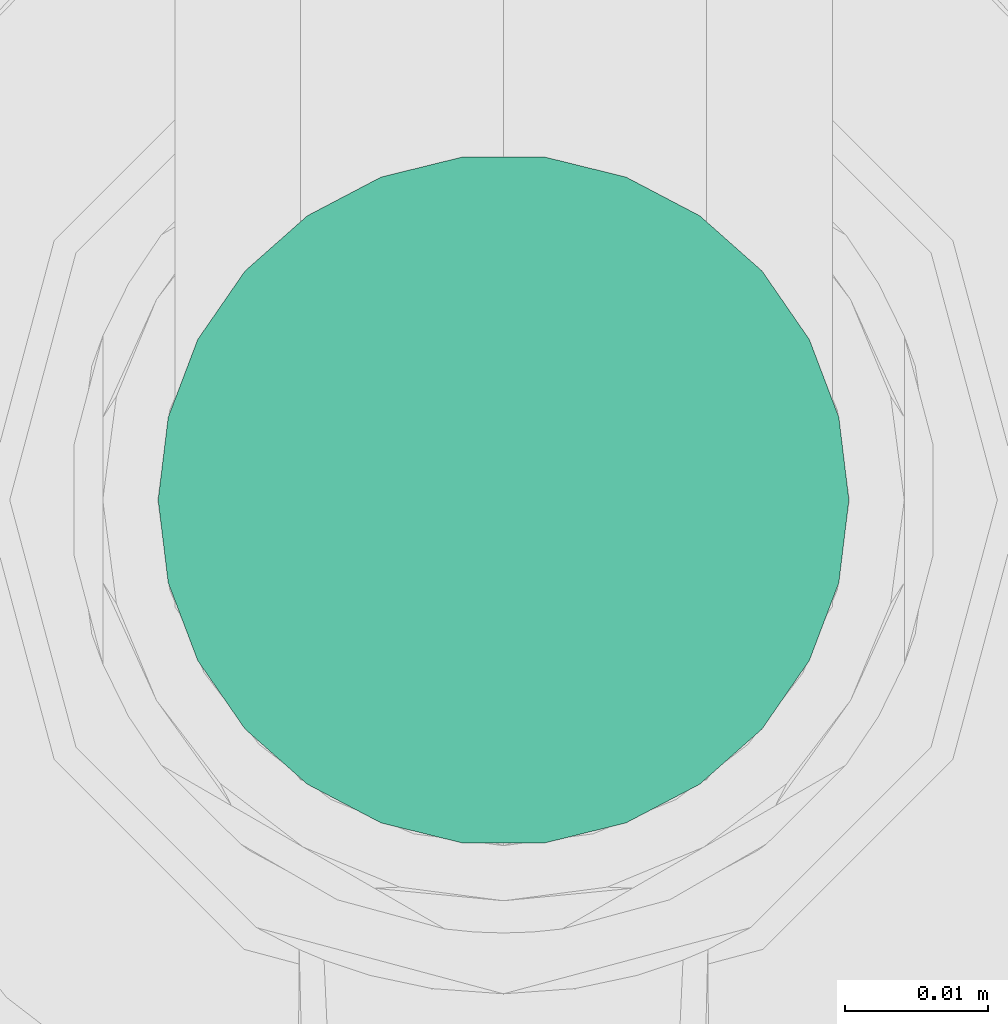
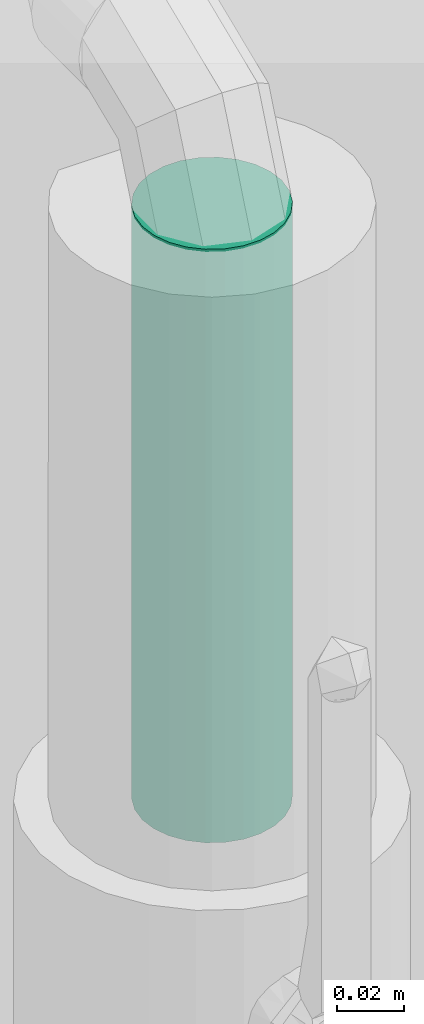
# One storey, part 71 of 94: 1 flow segment.
"""IFC2X3 building model written with IfcOpenShell, lengths in millimetres."""

import ifcopenshell
import ifcopenshell.guid

model = None  # the IFC model being written
_history = None  # IfcOwnerHistory: only IFC2X3 demands one
_inside = {}  # id of a spatial element -> (the spatial element, [elements in it])
_under = {}  # id of a project, library or spatial element -> (it, [spatial elements below it])
_declared = {}  # id of a project -> (the project, [libraries it declares])
_typed = {}  # id of a type object -> (the type object, [elements of that type])
_made_of = {}  # id of a material, layer set ... -> (it, [elements and type objects made of it])


def new_model(schema):
    """Start an empty IFC model of exactly this schema.

    Asked for "IFC4X3", IfcOpenShell would pick the latest addendum, in which some entities
    have other attributes; the version numbers below select the first issue.
    IFC2X3 requires an IfcOwnerHistory on every rooted entity: one is made here for all.
    """
    global model, _history
    if schema == "IFC4X3":
        model = ifcopenshell.file(schema_version=(4, 3, 0, 0))
    else:
        model = ifcopenshell.file(schema=schema)
    _inside.clear()
    _under.clear()
    _declared.clear()
    _typed.clear()
    _made_of.clear()
    _history = None
    if model.schema == "IFC2X3":
        org = make("IfcOrganization", Name="unknown")
        user = make(
            "IfcPersonAndOrganization",
            ThePerson=make("IfcPerson", FamilyName="unknown"),
            TheOrganization=org,
        )
        app = make(
            "IfcApplication",
            ApplicationDeveloper=org,
            Version="unknown",
            ApplicationFullName="unknown",
            ApplicationIdentifier="unknown",
        )
        _history = make(
            "IfcOwnerHistory",
            OwningUser=user,
            OwningApplication=app,
            ChangeAction="ADDED",
            CreationDate=0,
        )
    return model


def make(cls, **values):
    """One entity of the class cls with the attributes given. An attribute that is None is left unset."""
    return model.create_entity(
        cls, **{name: value for name, value in values.items() if value is not None}
    )


def entity(cls, *values):
    """Any entity or typed value of the class cls, its attributes in the order of the schema. None: left unset."""
    e = model.create_entity(cls)
    for i, value in enumerate(values):
        if value is not None:
            e[i] = value
    return e


def rooted(cls, **values):
    """An entity with a GlobalId (a new one), such as an element, a storey or a relation."""
    return make(cls, GlobalId=ifcopenshell.guid.new(), OwnerHistory=_history, **values)


def si_unit(unit_type, name, prefix=None):
    """IfcSIUnit, for example si_unit("LENGTHUNIT", "METRE", prefix="MILLI")."""
    return make("IfcSIUnit", UnitType=unit_type, Prefix=prefix, Name=name)


def converted_unit(unit_type, name, factor, base, dimensions=None, offset=None):
    """IfcConversionBasedUnit, such as the inch: factor (a typed value) times the base unit."""
    return make(
        "IfcConversionBasedUnit"
        if offset is None
        else "IfcConversionBasedUnitWithOffset",
        ConversionOffset=offset,
        Dimensions=None
        if dimensions is None
        else entity("IfcDimensionalExponents", *dimensions),
        UnitType=unit_type,
        Name=name,
        ConversionFactor=make(
            "IfcMeasureWithUnit", ValueComponent=factor, UnitComponent=base
        ),
    )


def derived_unit(unit_type, elements):
    """IfcDerivedUnit: a product of units, each with its exponent."""
    return make(
        "IfcDerivedUnit",
        Elements=[
            make("IfcDerivedUnitElement", Unit=unit, Exponent=power)
            for unit, power in elements
        ],
        UnitType=unit_type,
    )


def assignment(units):
    """IfcUnitAssignment: the units of a project."""
    return None if units is None else make("IfcUnitAssignment", Units=units)


def point(xyz):
    """IfcCartesianPoint."""
    return None if xyz is None else make("IfcCartesianPoint", Coordinates=xyz)


def direction(xyz):
    """IfcDirection."""
    return None if xyz is None else make("IfcDirection", DirectionRatios=xyz)


def frame(location, z_axis=None, x_axis=None):
    """IfcAxis2Placement3D, a coordinate frame: its origin and axes. An axis left out is left unset."""
    return make(
        "IfcAxis2Placement3D",
        Location=point(location),
        Axis=direction(z_axis),
        RefDirection=direction(x_axis),
    )


def frame_2d(location, x_axis=None):
    """IfcAxis2Placement2D, a coordinate frame in the plane: its origin and x axis."""
    return make(
        "IfcAxis2Placement2D", Location=point(location), RefDirection=direction(x_axis)
    )


def origin():
    """The frame at (0, 0, 0) with its axes left unset."""
    return frame((0.0, 0.0, 0.0))


def origin_2d_with_axis():
    """The frame at (0, 0) in the plane with the x axis (1, 0) written out."""
    return frame_2d((0.0, 0.0), x_axis=(1.0, 0.0))


def place(relative_to, where):
    """IfcLocalPlacement: puts the frame where relative to a parent placement (None: the world)."""
    return make(
        "IfcLocalPlacement", PlacementRelTo=relative_to, RelativePlacement=where
    )


def context(
    kind, dimensions, precision=None, world=None, true_north=None, identifier=None
):
    """IfcGeometricRepresentationContext, for example the 3D "Model" context."""
    return make(
        "IfcGeometricRepresentationContext",
        ContextIdentifier=identifier,
        ContextType=kind,
        CoordinateSpaceDimension=dimensions,
        Precision=precision,
        WorldCoordinateSystem=world,
        TrueNorth=true_north,
    )


def subcontext(parent, identifier, kind, view, scale=None):
    """IfcGeometricRepresentationSubContext, for example "Body" below "Model"."""
    return make(
        "IfcGeometricRepresentationSubContext",
        ContextIdentifier=identifier,
        ContextType=kind,
        ParentContext=parent,
        TargetScale=scale,
        TargetView=view,
    )


def project(units=None, contexts=None):
    """IfcProject with its units and contexts."""
    return rooted(
        "IfcProject",
        Name="project",
        RepresentationContexts=contexts,
        UnitsInContext=assignment(units),
    )


def spatial(cls, under=None, at=None, **own):
    """A site, building, storey or space (cls), placed at a placement, below another one or the project."""
    s = rooted(cls, ObjectPlacement=at, **own)
    if under is not None:
        _under.setdefault(under.id(), (under, []))[1].append(s)
    return s


def profile(cls, at=None, kind="AREA", **sizes):
    """A parametric profile (cls). Its sizes go by their IFC names, for example OverallWidth=200.0."""
    return make(cls, ProfileType=kind, Position=at, **sizes)


def circle(**sizes):
    """IfcCircleProfileDef."""
    return profile("IfcCircleProfileDef", **sizes)


def extrude(swept, where, along, depth):
    """IfcExtrudedAreaSolid: the profile swept, set in the frame where, extruded along a direction by depth."""
    return make(
        "IfcExtrudedAreaSolid",
        SweptArea=swept,
        Position=where,
        ExtrudedDirection=direction(along),
        Depth=depth,
    )


def shape(context_of_items, identifier, shape_type, items):
    """IfcShapeRepresentation: the items that make up one representation, for example the "Body"."""
    return make(
        "IfcShapeRepresentation",
        ContextOfItems=context_of_items,
        RepresentationIdentifier=identifier,
        RepresentationType=shape_type,
        Items=items,
    )


def made_of(thing, what):
    """Note that an element or type object is made of a material, layer set ...; save() writes the relation."""
    if what is not None:
        _made_of.setdefault(what.id(), (what, []))[1].append(thing)
    return thing


def type_object(cls, material=None, **own):
    """A type object (cls), such as IfcWallType, which elements share."""
    return made_of(rooted(cls, **own), material)


def element(
    cls,
    number,
    at=None,
    inside=None,
    cuts=None,
    type_object=None,
    material=None,
    context=None,
    identifier="Body",
    shape_type=None,
    held_by="IfcProductDefinitionShape",
    body=None,
    shapes=None,
    **own,
):
    """One element of the class cls, such as IfcWall. Its Tag is "e" and its number.

    at: its placement. inside: the storey or other place that contains it. cuts: it is an
    opening in that element (IfcRelVoidsElement). A single representation is given by context,
    identifier, shape_type and body (its items); several are given by shapes. held_by: the class
    of the entity that holds the representations. save() writes the other relations.
    """
    e = rooted(cls, Tag="e%d" % number, ObjectPlacement=at, **own)
    if body is not None:
        shapes = [shape(context, identifier, shape_type, body)]
    if shapes is not None:
        e.Representation = make(held_by, Representations=shapes)
    if inside is not None:
        _inside.setdefault(inside.id(), (inside, []))[1].append(e)
    if cuts is not None:
        rooted(
            "IfcRelVoidsElement", RelatingBuildingElement=cuts, RelatedOpeningElement=e
        )
    if type_object is not None:
        _typed.setdefault(type_object.id(), (type_object, []))[1].append(e)
    return made_of(e, material)


def aggregate(whole, parts):
    """IfcRelAggregates: a whole, such as a stair, and the parts it consists of."""
    return rooted("IfcRelAggregates", RelatingObject=whole, RelatedObjects=parts)


def save(model, path):
    """Write the relations noted so far, then the file.

    IfcRelAggregates (storeys below a building ...), IfcRelContainedInSpatialStructure (elements
    in a storey), IfcRelDefinesByType, IfcRelAssociatesMaterial and IfcRelDeclares: one each for
    every whole, place, type object, material and project.
    """
    for whole, parts in _under.values():
        aggregate(whole, parts)
    for where, things in _inside.values():
        rooted(
            "IfcRelContainedInSpatialStructure",
            RelatedElements=things,
            RelatingStructure=where,
        )
    for kind, things in _typed.values():
        rooted("IfcRelDefinesByType", RelatedObjects=things, RelatingType=kind)
    for what, things in _made_of.values():
        rooted("IfcRelAssociatesMaterial", RelatedObjects=things, RelatingMaterial=what)
    for by, libraries in _declared.values():
        rooted("IfcRelDeclares", RelatingContext=by, RelatedDefinitions=libraries)
    model.write(path)


model = new_model("IFC2X3")

# Units and contexts
model_context = context("Model", 3, precision=0.01, world=origin(), true_north=direction((6.123031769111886e-17, 1.0)))
body_context = subcontext(model_context, "Body", "Model", "MODEL_VIEW")
ifc_project = project(units=[si_unit("LENGTHUNIT", "METRE", prefix="MILLI"), si_unit("AREAUNIT", "SQUARE_METRE"), si_unit("VOLUMEUNIT", "CUBIC_METRE"), converted_unit("PLANEANGLEUNIT", "DEGREE", entity("IfcRatioMeasure", 0.017453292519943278), si_unit("PLANEANGLEUNIT", "RADIAN"), dimensions=[0, 0, 0, 0, 0, 0, 0]), si_unit("MASSUNIT", "GRAM", prefix="KILO"), derived_unit("MASSDENSITYUNIT", [(si_unit("MASSUNIT", "GRAM", prefix="KILO"), 1), (si_unit("LENGTHUNIT", "METRE"), -3)]), derived_unit("IONCONCENTRATIONUNIT", [(si_unit("MASSUNIT", "GRAM", prefix="KILO"), 1), (si_unit("LENGTHUNIT", "METRE"), -3)]), derived_unit("MOMENTOFINERTIAUNIT", [(si_unit("LENGTHUNIT", "METRE"), 4)]), si_unit("TIMEUNIT", "SECOND"), si_unit("FREQUENCYUNIT", "HERTZ"), si_unit("THERMODYNAMICTEMPERATUREUNIT", "DEGREE_CELSIUS"), derived_unit("THERMALTRANSMITTANCEUNIT", [(si_unit("MASSUNIT", "GRAM", prefix="KILO"), 1), (si_unit("THERMODYNAMICTEMPERATUREUNIT", "KELVIN"), -1), (si_unit("TIMEUNIT", "SECOND"), -3)]), derived_unit("THERMALCONDUCTANCEUNIT", [(si_unit("MASSUNIT", "GRAM", prefix="KILO"), 1), (si_unit("THERMODYNAMICTEMPERATUREUNIT", "KELVIN"), -1), (si_unit("TIMEUNIT", "SECOND"), -3), (si_unit("LENGTHUNIT", "METRE"), 1)]), derived_unit("VOLUMETRICFLOWRATEUNIT", [(si_unit("LENGTHUNIT", "METRE"), 3), (si_unit("TIMEUNIT", "SECOND"), -1)]), derived_unit("MASSFLOWRATEUNIT", [(si_unit("MASSUNIT", "GRAM", prefix="KILO"), 1), (si_unit("TIMEUNIT", "SECOND"), -1)]), derived_unit("ROTATIONALFREQUENCYUNIT", [(si_unit("TIMEUNIT", "SECOND"), -1)]), si_unit("ELECTRICCURRENTUNIT", "AMPERE"), si_unit("ELECTRICVOLTAGEUNIT", "VOLT"), si_unit("POWERUNIT", "WATT"), si_unit("FORCEUNIT", "NEWTON", prefix="KILO"), si_unit("ILLUMINANCEUNIT", "LUX"), si_unit("LUMINOUSFLUXUNIT", "LUMEN"), si_unit("LUMINOUSINTENSITYUNIT", "CANDELA"), derived_unit("USERDEFINED", [(si_unit("MASSUNIT", "GRAM", prefix="KILO"), -1), (si_unit("LENGTHUNIT", "METRE"), -2), (si_unit("TIMEUNIT", "SECOND"), 3), (si_unit("LUMINOUSFLUXUNIT", "LUMEN"), 1)]), derived_unit("USERDEFINED", [(si_unit("MASSUNIT", "GRAM", prefix="KILO"), 1), (si_unit("TIMEUNIT", "SECOND"), -3), (si_unit("LENGTHUNIT", "METRE"), 3), (si_unit("ELECTRICCURRENTUNIT", "AMPERE"), -2)]), derived_unit("SOUNDPOWERUNIT", [(si_unit("MASSUNIT", "GRAM", prefix="KILO"), 1), (si_unit("TIMEUNIT", "SECOND"), -3), (si_unit("LENGTHUNIT", "METRE"), 2)]), derived_unit("SOUNDPRESSUREUNIT", [(si_unit("MASSUNIT", "GRAM", prefix="KILO"), 1), (si_unit("LENGTHUNIT", "METRE"), -1), (si_unit("TIMEUNIT", "SECOND"), -2)]), derived_unit("LINEARVELOCITYUNIT", [(si_unit("LENGTHUNIT", "METRE"), 1), (si_unit("TIMEUNIT", "SECOND"), -1)]), si_unit("PRESSUREUNIT", "PASCAL"), derived_unit("USERDEFINED", [(si_unit("MASSUNIT", "GRAM", prefix="KILO"), 1), (si_unit("LENGTHUNIT", "METRE"), -2), (si_unit("TIMEUNIT", "SECOND"), -2)]), derived_unit("LINEARFORCEUNIT", [(si_unit("MASSUNIT", "GRAM", prefix="KILO"), 1), (si_unit("TIMEUNIT", "SECOND"), -2)]), derived_unit("PLANARFORCEUNIT", [(si_unit("MASSUNIT", "GRAM", prefix="KILO"), 1), (si_unit("LENGTHUNIT", "METRE"), -1), (si_unit("TIMEUNIT", "SECOND"), -2)]), derived_unit("SPECIFICHEATCAPACITYUNIT", [(si_unit("THERMODYNAMICTEMPERATUREUNIT", "KELVIN"), -1), (si_unit("LENGTHUNIT", "METRE"), 2), (si_unit("TIMEUNIT", "SECOND"), -2)]), derived_unit("HEATINGVALUEUNIT", [(si_unit("LENGTHUNIT", "METRE"), 2), (si_unit("TIMEUNIT", "SECOND"), -2)]), derived_unit("VAPORPERMEABILITYUNIT", [(si_unit("LENGTHUNIT", "METRE"), -1), (si_unit("TIMEUNIT", "SECOND"), 1)]), derived_unit("DYNAMICVISCOSITYUNIT", [(si_unit("MASSUNIT", "GRAM", prefix="KILO"), 1), (si_unit("TIMEUNIT", "SECOND"), -1), (si_unit("LENGTHUNIT", "METRE"), -1)]), derived_unit("THERMALEXPANSIONCOEFFICIENTUNIT", [(si_unit("THERMODYNAMICTEMPERATUREUNIT", "KELVIN"), -1)]), derived_unit("MODULUSOFELASTICITYUNIT", [(si_unit("MASSUNIT", "GRAM", prefix="KILO"), 1), (si_unit("LENGTHUNIT", "METRE"), -1), (si_unit("TIMEUNIT", "SECOND"), -2)]), derived_unit("ISOTHERMALMOISTURECAPACITYUNIT", [(si_unit("LENGTHUNIT", "METRE"), 3), (si_unit("MASSUNIT", "GRAM", prefix="KILO"), -1)]), derived_unit("MOISTUREDIFFUSIVITYUNIT", [(si_unit("TIMEUNIT", "SECOND"), -1), (si_unit("LENGTHUNIT", "METRE"), 2)])], contexts=[model_context])

# Site, building, storey
site_placement = place(None, origin())
site = spatial("IfcSite", under=ifc_project, at=site_placement, Name="Default", CompositionType="ELEMENT")
building_placement = place(site_placement, origin())
building = spatial("IfcBuilding", under=site, at=building_placement, CompositionType="ELEMENT")
storey_placement = place(building_placement, origin())
storey = spatial("IfcBuildingStorey", under=building, at=storey_placement, Name="Niveau 0", CompositionType="ELEMENT", Elevation=0.0)

# Flow segment
pipe_segment_type = type_object("IfcPipeSegmentType", Name="Canalisation:Bride acier", PredefinedType="NOTDEFINED")
flow_segment_placement = place(storey_placement, origin())
element("IfcFlowSegment", 1, at=flow_segment_placement, inside=storey, type_object=pipe_segment_type, Name="Canalisation:Bride acier", ObjectType="Canalisation:Bride acier", context=body_context, shape_type="SweptSolid", body=[
    extrude(circle(Radius=24.13, at=origin_2d_with_axis()), frame((-10372.14586555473, 9922.470546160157, 2695.0), z_axis=(0.0, 0.0, 1.0), x_axis=(-1.0, 0.0, 0.0)), (0.0, 0.0, 1.0), 216.99999999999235),
])

save(model, "model.ifc")
